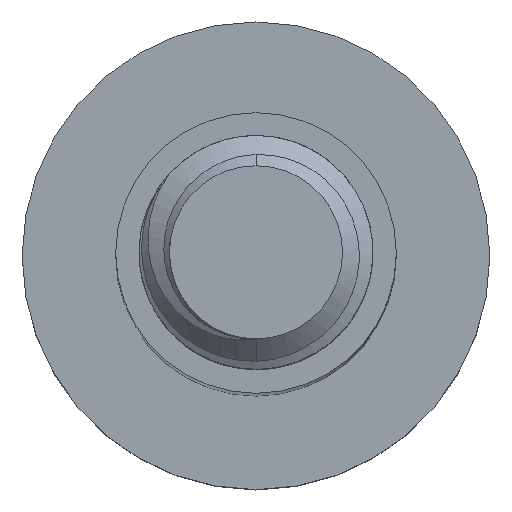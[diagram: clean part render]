
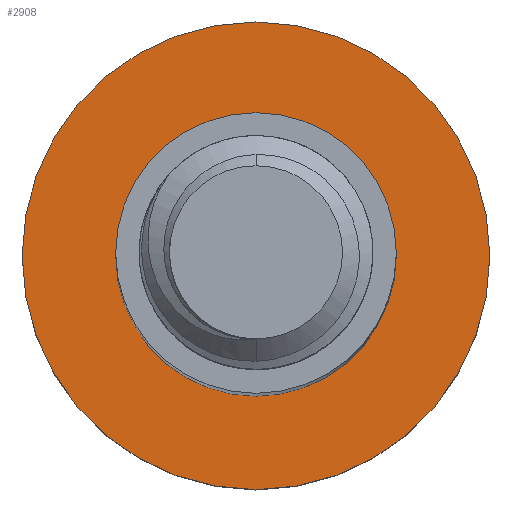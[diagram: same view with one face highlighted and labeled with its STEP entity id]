
A CAD part, top view. The second image highlights one B-rep face of the part: STEP entity #2908.
In plain terms, the highlighted planar face has unit normal (0, 0, 1).
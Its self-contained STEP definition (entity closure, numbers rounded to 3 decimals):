
#40 = DIRECTION ( 'NONE',  ( 0., 0., -1. ) ) ;
#129 = CIRCLE ( 'NONE', #2315, 10. ) ;
#147 = EDGE_CURVE ( 'NONE', #2720, #3037, #2658, .T. ) ;
#157 = ORIENTED_EDGE ( 'NONE', *, *, #3499, .F. ) ;
#214 = CARTESIAN_POINT ( 'NONE',  ( 10., 0., -70. ) ) ;
#300 = AXIS2_PLACEMENT_3D ( 'NONE', #448, #1847, #2934 ) ;
#448 = CARTESIAN_POINT ( 'NONE',  ( 0., 0., -70. ) ) ;
#458 = DIRECTION ( 'NONE',  ( -1., 0., 0. ) ) ;
#538 = CARTESIAN_POINT ( 'NONE',  ( 6., 0., -70. ) ) ;
#786 = ORIENTED_EDGE ( 'NONE', *, *, #3040, .T. ) ;
#854 = DIRECTION ( 'NONE',  ( 0., 0., -1. ) ) ;
#1002 = FACE_BOUND ( 'NONE', #2566, .T. ) ;
#1112 = DIRECTION ( 'NONE',  ( -1., 0., 0. ) ) ;
#1386 = EDGE_LOOP ( 'NONE', ( #157, #2767 ) ) ;
#1524 = CARTESIAN_POINT ( 'NONE',  ( 0., 0., -70. ) ) ;
#1847 = DIRECTION ( 'NONE',  ( 0., 0., -1. ) ) ;
#1942 = CARTESIAN_POINT ( 'NONE',  ( 0., 0., -70. ) ) ;
#2063 = VERTEX_POINT ( 'NONE', #214 ) ;
#2098 = FACE_OUTER_BOUND ( 'NONE', #1386, .T. ) ;
#2106 = CARTESIAN_POINT ( 'NONE',  ( -6., 0., -70. ) ) ;
#2226 = DIRECTION ( 'NONE',  ( -1., 0., 0. ) ) ;
#2291 = VERTEX_POINT ( 'NONE', #2552 ) ;
#2315 = AXIS2_PLACEMENT_3D ( 'NONE', #3358, #854, #1112 ) ;
#2354 = CARTESIAN_POINT ( 'NONE',  ( 0., 0., -70. ) ) ;
#2373 = DIRECTION ( 'NONE',  ( -1., 0., 0. ) ) ;
#2531 = AXIS2_PLACEMENT_3D ( 'NONE', #1942, #40, #2226 ) ;
#2552 = CARTESIAN_POINT ( 'NONE',  ( -10., 0., -70. ) ) ;
#2566 = EDGE_LOOP ( 'NONE', ( #786, #2586 ) ) ;
#2581 = DIRECTION ( 'NONE',  ( 0., 0., -1. ) ) ;
#2586 = ORIENTED_EDGE ( 'NONE', *, *, #147, .T. ) ;
#2658 = CIRCLE ( 'NONE', #2531, 6. ) ;
#2720 = VERTEX_POINT ( 'NONE', #538 ) ;
#2767 = ORIENTED_EDGE ( 'NONE', *, *, #3128, .F. ) ;
#2823 = CIRCLE ( 'NONE', #3406, 6. ) ;
#2893 = AXIS2_PLACEMENT_3D ( 'NONE', #1524, #2581, #458 ) ;
#2908 = ADVANCED_FACE ( 'NONE', ( #1002, #2098 ), #3193, .F. ) ;
#2934 = DIRECTION ( 'NONE',  ( -1., 0., 0. ) ) ;
#3037 = VERTEX_POINT ( 'NONE', #2106 ) ;
#3040 = EDGE_CURVE ( 'NONE', #3037, #2720, #2823, .T. ) ;
#3128 = EDGE_CURVE ( 'NONE', #2291, #2063, #3254, .T. ) ;
#3193 = PLANE ( 'NONE',  #2893 ) ;
#3238 = DIRECTION ( 'NONE',  ( 0., 0., -1. ) ) ;
#3254 = CIRCLE ( 'NONE', #300, 10. ) ;
#3358 = CARTESIAN_POINT ( 'NONE',  ( 0., 0., -70. ) ) ;
#3406 = AXIS2_PLACEMENT_3D ( 'NONE', #2354, #3238, #2373 ) ;
#3499 = EDGE_CURVE ( 'NONE', #2063, #2291, #129, .T. ) ;
